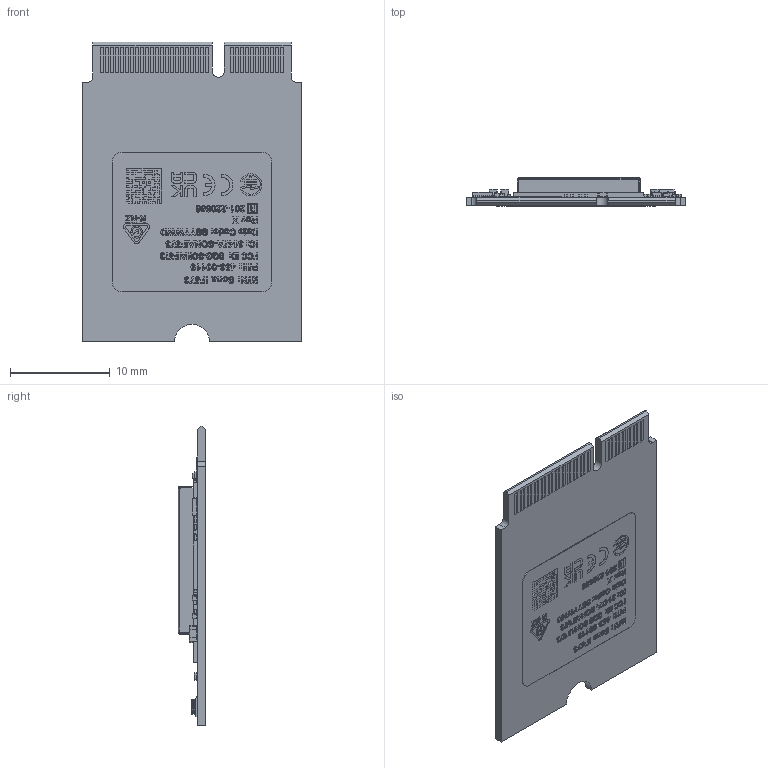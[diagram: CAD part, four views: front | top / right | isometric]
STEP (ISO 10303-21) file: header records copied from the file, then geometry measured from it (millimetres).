
FILE_DESCRIPTION (( 'STEP AP214' ), '1' );
FILE_NAME ('453-00119.STEP', '2026-05-28T01:27:47', ( '' ), ( '' ), 'SwSTEP 2.0', 'SolidWorks 2025', '' );
FILE_SCHEMA (( 'AUTOMOTIVE_DESIGN' ));
Length unit declared in the file: millimetre
Products named in the file (9): 940-00232; 453-00119; 160-02376_453-00119; 750-03373-11108201_940-00165, MIMO, ST; 750-03375_940-00232, SDIO; 940-00165_453-00118_Laser; 453-00118; 160-02375_453-00119; 110-00817_453-00118
Assembly tree (8 placements, depth 5):
  453-00119
    940-00232
      750-03375_940-00232, SDIO
      453-00118
        940-00165_453-00118_Laser
          750-03373-11108201_940-00165, MIMO, ST
          110-00817_453-00118
    160-02375_453-00119
    160-02376_453-00119
Bounding box: 22 x 2.79 x 30 mm (x, y, z)
Volume: 163.3 mm3; surface area: 3730.8 mm2
Topology: 414 solids, 728 shells, 11677 faces, 28065 edges, 17857 vertices
Faces by surface type: plane 8025, cylinder 1636, bspline 1538, sphere 444, cone 30, torus 4
Entity records: 534562 total; most frequent: CARTESIAN_POINT 142303, ORIENTED_EDGE 55089, DIRECTION 46657, EDGE_CURVE 27621, VECTOR 21105, LINE 21105, VERTEX_POINT 17857, AXIS2_PLACEMENT_3D 12776
